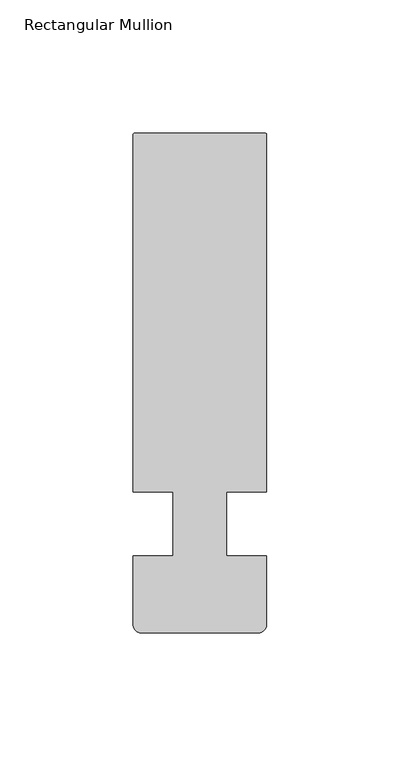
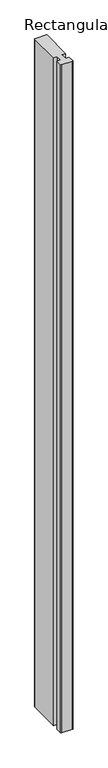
"""IFC4 building model written with IfcOpenShell, lengths in millimetres: member geometry, Rectangular Mullion : Reynaers verticaal."""

from ifc_helpers import new_model, si_unit, point, frame, frame_2d, origin, place, context, project, spatial, polyline, circle_curve, trimmed, segment, composite_curve, outline, extrude, source, transform, mapped, element, save


def rectangular_mullion_06f2ecc5(model_context):
    return source(origin(), model_context, "Body", "SweptSolid", [
        extrude(outline(composite_curve([segment(polyline([(-49.9879, -38.1094527), (-49.9879, -12.0), (-35.0, -12.0), (-35.0, 12.0), (-50.0, 12.0), (-50.0, 145.9999884)]), True, "CONTINUOUS"), segment(trimmed(circle_curve(frame_2d((-49.4999884, 145.9999884)), 0.5000116), [point((-50.0, 145.9999884))], [point((-49.4999884, 146.5))], False, "CARTESIAN"), True, "CONTINUOUS"), segment(polyline([(-49.4999884, 146.5), (-0.5000116, 146.5)]), True, "CONTINUOUS"), segment(trimmed(circle_curve(frame_2d((-0.5000116, 145.9999884)), 0.5000116), [point((-0.5000116, 146.5))], [point((0.0, 145.9999884))], False, "CARTESIAN"), True, "CONTINUOUS"), segment(polyline([(0.0, 145.9999884), (0.0, 11.9989825), (-15.0, 11.9989825), (-15.0, -12.0010175), (-0.0001, -12.0010175), (-0.0001, -37.841972)]), True, "CONTINUOUS"), segment(trimmed(circle_curve(frame_2d((-3.0001012, -37.841972)), 3.0000012), [point((-0.0001, -37.841972))], [point((-3.0001012, -40.8419732))], False, "CARTESIAN"), True, "CONTINUOUS"), segment(polyline([(-3.0001012, -40.8419732), (-47.0003621, -40.8419732)]), True, "CONTINUOUS"), segment(trimmed(circle_curve(frame_2d((-47.0003621, -37.8425353)), 2.9994379), [point((-47.0003621, -40.8419732))], [point((-49.9879, -38.1094527))], False, "CARTESIAN"), True, "CONTINUOUS")], self_intersect=False)), frame((0.0, 0.0, -2899.8333333), z_axis=(0.0, 0.0, 1.0), x_axis=(1.0, 0.0, 0.0)), (0.0, 0.0, 1.0), 2899.8333333),
    ])


if __name__ == "__main__":
    model = new_model("IFC4")
    model_context = context("Model", 3, world=origin())
    ifc_project = project(units=[si_unit("LENGTHUNIT", "METRE", prefix="MILLI")], contexts=[model_context])
    site = spatial("IfcSite", under=ifc_project)
    building = spatial("IfcBuilding", under=site)
    placement = place(None, origin())
    rectangular_mullion_shape = rectangular_mullion_06f2ecc5(model_context)
    element("IfcMember", 1, ObjectType="Rectangular Mullion : Reynaers verticaal", at=placement, inside=building, context=model_context, shape_type="MappedRepresentation", body=[
        mapped(rectangular_mullion_shape, transform((0.0, 0.0, 0.0), x_axis=(1.0, 0.0, 0.0), y_axis=(0.0, 1.0, 0.0), z_axis=(0.0, 0.0, 1.0))),
    ])
    save(model, "model.ifc")
